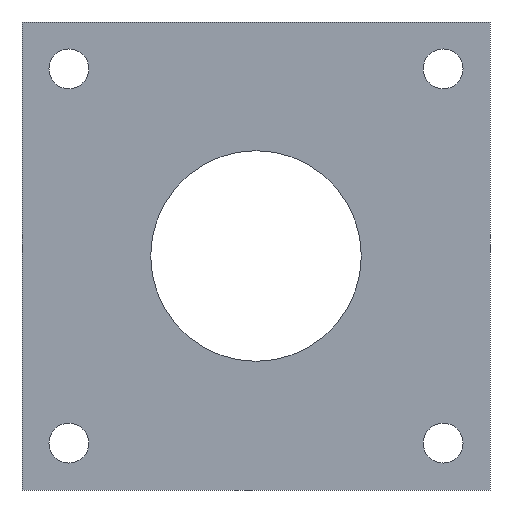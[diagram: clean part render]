
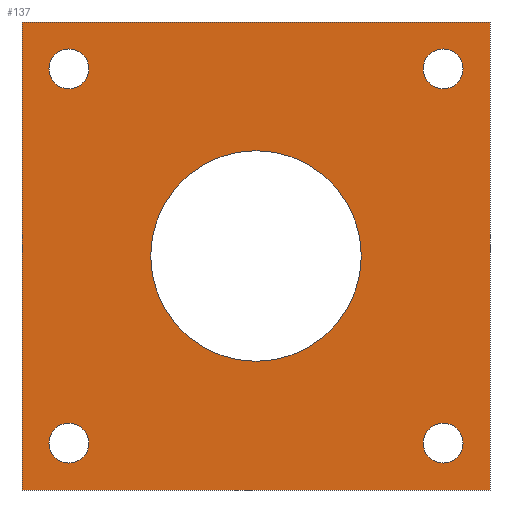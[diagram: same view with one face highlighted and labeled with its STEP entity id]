
A CAD part, front view. The second image highlights one B-rep face of the part: STEP entity #137.
In plain terms, the highlighted planar face has unit normal (0, -1, 0).
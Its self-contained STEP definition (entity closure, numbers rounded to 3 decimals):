
#21 = EDGE_CURVE('',#22,#24,#26,.T.);
#22 = VERTEX_POINT('',#23);
#23 = CARTESIAN_POINT('',(-20.,0.,-20.));
#24 = VERTEX_POINT('',#25);
#25 = CARTESIAN_POINT('',(-20.,0.,20.));
#26 = SURFACE_CURVE('',#27,(#31,#43),.PCURVE_S1.);
#27 = LINE('',#28,#29);
#28 = CARTESIAN_POINT('',(-20.,0.,-20.));
#29 = VECTOR('',#30,1.);
#30 = DIRECTION('',(0.,0.,1.));
#31 = PCURVE('',#32,#37);
#32 = PLANE('',#33);
#33 = AXIS2_PLACEMENT_3D('',#34,#35,#36);
#34 = CARTESIAN_POINT('',(-20.,0.,-20.));
#35 = DIRECTION('',(1.,0.,0.));
#36 = DIRECTION('',(0.,0.,1.));
#37 = DEFINITIONAL_REPRESENTATION('',(#38),#42);
#38 = LINE('',#39,#40);
#39 = CARTESIAN_POINT('',(0.,0.));
#40 = VECTOR('',#41,1.);
#41 = DIRECTION('',(1.,0.));
#42 = ( GEOMETRIC_REPRESENTATION_CONTEXT(2) 
PARAMETRIC_REPRESENTATION_CONTEXT() REPRESENTATION_CONTEXT('2D SPACE',''
  ) );
#43 = PCURVE('',#44,#49);
#44 = PLANE('',#45);
#45 = AXIS2_PLACEMENT_3D('',#46,#47,#48);
#46 = CARTESIAN_POINT('',(-20.,0.,-20.));
#47 = DIRECTION('',(0.,1.,0.));
#48 = DIRECTION('',(0.,0.,1.));
#49 = DEFINITIONAL_REPRESENTATION('',(#50),#54);
#50 = LINE('',#51,#52);
#51 = CARTESIAN_POINT('',(0.,0.));
#52 = VECTOR('',#53,1.);
#53 = DIRECTION('',(1.,0.));
#54 = ( GEOMETRIC_REPRESENTATION_CONTEXT(2) 
PARAMETRIC_REPRESENTATION_CONTEXT() REPRESENTATION_CONTEXT('2D SPACE',''
  ) );
#72 = PLANE('',#73);
#73 = AXIS2_PLACEMENT_3D('',#74,#75,#76);
#74 = CARTESIAN_POINT('',(-20.,0.,-20.));
#75 = DIRECTION('',(0.,0.,1.));
#76 = DIRECTION('',(1.,0.,0.));
#126 = PLANE('',#127);
#127 = AXIS2_PLACEMENT_3D('',#128,#129,#130);
#128 = CARTESIAN_POINT('',(-20.,0.,20.));
#129 = DIRECTION('',(0.,0.,1.));
#130 = DIRECTION('',(1.,0.,0.));
#137 = ADVANCED_FACE('',(#138,#213,#244,#275,#306,#337),#44,.F.);
#138 = FACE_BOUND('',#139,.F.);
#139 = EDGE_LOOP('',(#140,#163,#164,#187));
#140 = ORIENTED_EDGE('',*,*,#141,.F.);
#141 = EDGE_CURVE('',#22,#142,#144,.T.);
#142 = VERTEX_POINT('',#143);
#143 = CARTESIAN_POINT('',(20.,0.,-20.));
#144 = SURFACE_CURVE('',#145,(#149,#156),.PCURVE_S1.);
#145 = LINE('',#146,#147);
#146 = CARTESIAN_POINT('',(-20.,0.,-20.));
#147 = VECTOR('',#148,1.);
#148 = DIRECTION('',(1.,0.,0.));
#149 = PCURVE('',#44,#150);
#150 = DEFINITIONAL_REPRESENTATION('',(#151),#155);
#151 = LINE('',#152,#153);
#152 = CARTESIAN_POINT('',(0.,0.));
#153 = VECTOR('',#154,1.);
#154 = DIRECTION('',(0.,1.));
#155 = ( GEOMETRIC_REPRESENTATION_CONTEXT(2) 
PARAMETRIC_REPRESENTATION_CONTEXT() REPRESENTATION_CONTEXT('2D SPACE',''
  ) );
#156 = PCURVE('',#72,#157);
#157 = DEFINITIONAL_REPRESENTATION('',(#158),#162);
#158 = LINE('',#159,#160);
#159 = CARTESIAN_POINT('',(0.,0.));
#160 = VECTOR('',#161,1.);
#161 = DIRECTION('',(1.,0.));
#162 = ( GEOMETRIC_REPRESENTATION_CONTEXT(2) 
PARAMETRIC_REPRESENTATION_CONTEXT() REPRESENTATION_CONTEXT('2D SPACE',''
  ) );
#163 = ORIENTED_EDGE('',*,*,#21,.T.);
#164 = ORIENTED_EDGE('',*,*,#165,.T.);
#165 = EDGE_CURVE('',#24,#166,#168,.T.);
#166 = VERTEX_POINT('',#167);
#167 = CARTESIAN_POINT('',(20.,0.,20.));
#168 = SURFACE_CURVE('',#169,(#173,#180),.PCURVE_S1.);
#169 = LINE('',#170,#171);
#170 = CARTESIAN_POINT('',(-20.,0.,20.));
#171 = VECTOR('',#172,1.);
#172 = DIRECTION('',(1.,0.,0.));
#173 = PCURVE('',#44,#174);
#174 = DEFINITIONAL_REPRESENTATION('',(#175),#179);
#175 = LINE('',#176,#177);
#176 = CARTESIAN_POINT('',(40.,0.));
#177 = VECTOR('',#178,1.);
#178 = DIRECTION('',(0.,1.));
#179 = ( GEOMETRIC_REPRESENTATION_CONTEXT(2) 
PARAMETRIC_REPRESENTATION_CONTEXT() REPRESENTATION_CONTEXT('2D SPACE',''
  ) );
#180 = PCURVE('',#126,#181);
#181 = DEFINITIONAL_REPRESENTATION('',(#182),#186);
#182 = LINE('',#183,#184);
#183 = CARTESIAN_POINT('',(0.,0.));
#184 = VECTOR('',#185,1.);
#185 = DIRECTION('',(1.,0.));
#186 = ( GEOMETRIC_REPRESENTATION_CONTEXT(2) 
PARAMETRIC_REPRESENTATION_CONTEXT() REPRESENTATION_CONTEXT('2D SPACE',''
  ) );
#187 = ORIENTED_EDGE('',*,*,#188,.F.);
#188 = EDGE_CURVE('',#142,#166,#189,.T.);
#189 = SURFACE_CURVE('',#190,(#194,#201),.PCURVE_S1.);
#190 = LINE('',#191,#192);
#191 = CARTESIAN_POINT('',(20.,0.,-20.));
#192 = VECTOR('',#193,1.);
#193 = DIRECTION('',(0.,0.,1.));
#194 = PCURVE('',#44,#195);
#195 = DEFINITIONAL_REPRESENTATION('',(#196),#200);
#196 = LINE('',#197,#198);
#197 = CARTESIAN_POINT('',(0.,40.));
#198 = VECTOR('',#199,1.);
#199 = DIRECTION('',(1.,0.));
#200 = ( GEOMETRIC_REPRESENTATION_CONTEXT(2) 
PARAMETRIC_REPRESENTATION_CONTEXT() REPRESENTATION_CONTEXT('2D SPACE',''
  ) );
#201 = PCURVE('',#202,#207);
#202 = PLANE('',#203);
#203 = AXIS2_PLACEMENT_3D('',#204,#205,#206);
#204 = CARTESIAN_POINT('',(20.,0.,-20.));
#205 = DIRECTION('',(1.,0.,0.));
#206 = DIRECTION('',(0.,0.,1.));
#207 = DEFINITIONAL_REPRESENTATION('',(#208),#212);
#208 = LINE('',#209,#210);
#209 = CARTESIAN_POINT('',(0.,0.));
#210 = VECTOR('',#211,1.);
#211 = DIRECTION('',(1.,0.));
#212 = ( GEOMETRIC_REPRESENTATION_CONTEXT(2) 
PARAMETRIC_REPRESENTATION_CONTEXT() REPRESENTATION_CONTEXT('2D SPACE',''
  ) );
#213 = FACE_BOUND('',#214,.F.);
#214 = EDGE_LOOP('',(#215));
#215 = ORIENTED_EDGE('',*,*,#216,.F.);
#216 = EDGE_CURVE('',#217,#217,#219,.T.);
#217 = VERTEX_POINT('',#218);
#218 = CARTESIAN_POINT('',(-16.,0.,-14.3));
#219 = SURFACE_CURVE('',#220,(#225,#232),.PCURVE_S1.);
#220 = CIRCLE('',#221,1.7);
#221 = AXIS2_PLACEMENT_3D('',#222,#223,#224);
#222 = CARTESIAN_POINT('',(-16.,0.,-16.));
#223 = DIRECTION('',(0.,1.,0.));
#224 = DIRECTION('',(0.,-0.,1.));
#225 = PCURVE('',#44,#226);
#226 = DEFINITIONAL_REPRESENTATION('',(#227),#231);
#227 = CIRCLE('',#228,1.7);
#228 = AXIS2_PLACEMENT_2D('',#229,#230);
#229 = CARTESIAN_POINT('',(4.,4.));
#230 = DIRECTION('',(1.,0.));
#231 = ( GEOMETRIC_REPRESENTATION_CONTEXT(2) 
PARAMETRIC_REPRESENTATION_CONTEXT() REPRESENTATION_CONTEXT('2D SPACE',''
  ) );
#232 = PCURVE('',#233,#238);
#233 = CYLINDRICAL_SURFACE('',#234,1.7);
#234 = AXIS2_PLACEMENT_3D('',#235,#236,#237);
#235 = CARTESIAN_POINT('',(-16.,-1.,-16.));
#236 = DIRECTION('',(0.,1.,0.));
#237 = DIRECTION('',(0.,-0.,1.));
#238 = DEFINITIONAL_REPRESENTATION('',(#239),#243);
#239 = LINE('',#240,#241);
#240 = CARTESIAN_POINT('',(0.,1.));
#241 = VECTOR('',#242,1.);
#242 = DIRECTION('',(1.,0.));
#243 = ( GEOMETRIC_REPRESENTATION_CONTEXT(2) 
PARAMETRIC_REPRESENTATION_CONTEXT() REPRESENTATION_CONTEXT('2D SPACE',''
  ) );
#244 = FACE_BOUND('',#245,.F.);
#245 = EDGE_LOOP('',(#246));
#246 = ORIENTED_EDGE('',*,*,#247,.F.);
#247 = EDGE_CURVE('',#248,#248,#250,.T.);
#248 = VERTEX_POINT('',#249);
#249 = CARTESIAN_POINT('',(0.,0.,9.));
#250 = SURFACE_CURVE('',#251,(#256,#263),.PCURVE_S1.);
#251 = CIRCLE('',#252,9.);
#252 = AXIS2_PLACEMENT_3D('',#253,#254,#255);
#253 = CARTESIAN_POINT('',(0.,0.,0.));
#254 = DIRECTION('',(0.,1.,0.));
#255 = DIRECTION('',(0.,-0.,1.));
#256 = PCURVE('',#44,#257);
#257 = DEFINITIONAL_REPRESENTATION('',(#258),#262);
#258 = CIRCLE('',#259,9.);
#259 = AXIS2_PLACEMENT_2D('',#260,#261);
#260 = CARTESIAN_POINT('',(20.,20.));
#261 = DIRECTION('',(1.,0.));
#262 = ( GEOMETRIC_REPRESENTATION_CONTEXT(2) 
PARAMETRIC_REPRESENTATION_CONTEXT() REPRESENTATION_CONTEXT('2D SPACE',''
  ) );
#263 = PCURVE('',#264,#269);
#264 = CYLINDRICAL_SURFACE('',#265,9.);
#265 = AXIS2_PLACEMENT_3D('',#266,#267,#268);
#266 = CARTESIAN_POINT('',(0.,-1.,0.));
#267 = DIRECTION('',(0.,1.,0.));
#268 = DIRECTION('',(0.,-0.,1.));
#269 = DEFINITIONAL_REPRESENTATION('',(#270),#274);
#270 = LINE('',#271,#272);
#271 = CARTESIAN_POINT('',(0.,1.));
#272 = VECTOR('',#273,1.);
#273 = DIRECTION('',(1.,0.));
#274 = ( GEOMETRIC_REPRESENTATION_CONTEXT(2) 
PARAMETRIC_REPRESENTATION_CONTEXT() REPRESENTATION_CONTEXT('2D SPACE',''
  ) );
#275 = FACE_BOUND('',#276,.F.);
#276 = EDGE_LOOP('',(#277));
#277 = ORIENTED_EDGE('',*,*,#278,.F.);
#278 = EDGE_CURVE('',#279,#279,#281,.T.);
#279 = VERTEX_POINT('',#280);
#280 = CARTESIAN_POINT('',(-16.,0.,17.7));
#281 = SURFACE_CURVE('',#282,(#287,#294),.PCURVE_S1.);
#282 = CIRCLE('',#283,1.7);
#283 = AXIS2_PLACEMENT_3D('',#284,#285,#286);
#284 = CARTESIAN_POINT('',(-16.,0.,16.));
#285 = DIRECTION('',(0.,1.,0.));
#286 = DIRECTION('',(0.,-0.,1.));
#287 = PCURVE('',#44,#288);
#288 = DEFINITIONAL_REPRESENTATION('',(#289),#293);
#289 = CIRCLE('',#290,1.7);
#290 = AXIS2_PLACEMENT_2D('',#291,#292);
#291 = CARTESIAN_POINT('',(36.,4.));
#292 = DIRECTION('',(1.,0.));
#293 = ( GEOMETRIC_REPRESENTATION_CONTEXT(2) 
PARAMETRIC_REPRESENTATION_CONTEXT() REPRESENTATION_CONTEXT('2D SPACE',''
  ) );
#294 = PCURVE('',#295,#300);
#295 = CYLINDRICAL_SURFACE('',#296,1.7);
#296 = AXIS2_PLACEMENT_3D('',#297,#298,#299);
#297 = CARTESIAN_POINT('',(-16.,-1.,16.));
#298 = DIRECTION('',(0.,1.,0.));
#299 = DIRECTION('',(0.,-0.,1.));
#300 = DEFINITIONAL_REPRESENTATION('',(#301),#305);
#301 = LINE('',#302,#303);
#302 = CARTESIAN_POINT('',(0.,1.));
#303 = VECTOR('',#304,1.);
#304 = DIRECTION('',(1.,0.));
#305 = ( GEOMETRIC_REPRESENTATION_CONTEXT(2) 
PARAMETRIC_REPRESENTATION_CONTEXT() REPRESENTATION_CONTEXT('2D SPACE',''
  ) );
#306 = FACE_BOUND('',#307,.F.);
#307 = EDGE_LOOP('',(#308));
#308 = ORIENTED_EDGE('',*,*,#309,.F.);
#309 = EDGE_CURVE('',#310,#310,#312,.T.);
#310 = VERTEX_POINT('',#311);
#311 = CARTESIAN_POINT('',(16.,0.,-14.3));
#312 = SURFACE_CURVE('',#313,(#318,#325),.PCURVE_S1.);
#313 = CIRCLE('',#314,1.7);
#314 = AXIS2_PLACEMENT_3D('',#315,#316,#317);
#315 = CARTESIAN_POINT('',(16.,0.,-16.));
#316 = DIRECTION('',(0.,1.,0.));
#317 = DIRECTION('',(0.,-0.,1.));
#318 = PCURVE('',#44,#319);
#319 = DEFINITIONAL_REPRESENTATION('',(#320),#324);
#320 = CIRCLE('',#321,1.7);
#321 = AXIS2_PLACEMENT_2D('',#322,#323);
#322 = CARTESIAN_POINT('',(4.,36.));
#323 = DIRECTION('',(1.,0.));
#324 = ( GEOMETRIC_REPRESENTATION_CONTEXT(2) 
PARAMETRIC_REPRESENTATION_CONTEXT() REPRESENTATION_CONTEXT('2D SPACE',''
  ) );
#325 = PCURVE('',#326,#331);
#326 = CYLINDRICAL_SURFACE('',#327,1.7);
#327 = AXIS2_PLACEMENT_3D('',#328,#329,#330);
#328 = CARTESIAN_POINT('',(16.,-1.,-16.));
#329 = DIRECTION('',(0.,1.,0.));
#330 = DIRECTION('',(0.,-0.,1.));
#331 = DEFINITIONAL_REPRESENTATION('',(#332),#336);
#332 = LINE('',#333,#334);
#333 = CARTESIAN_POINT('',(0.,1.));
#334 = VECTOR('',#335,1.);
#335 = DIRECTION('',(1.,0.));
#336 = ( GEOMETRIC_REPRESENTATION_CONTEXT(2) 
PARAMETRIC_REPRESENTATION_CONTEXT() REPRESENTATION_CONTEXT('2D SPACE',''
  ) );
#337 = FACE_BOUND('',#338,.F.);
#338 = EDGE_LOOP('',(#339));
#339 = ORIENTED_EDGE('',*,*,#340,.F.);
#340 = EDGE_CURVE('',#341,#341,#343,.T.);
#341 = VERTEX_POINT('',#342);
#342 = CARTESIAN_POINT('',(16.,0.,17.7));
#343 = SURFACE_CURVE('',#344,(#349,#356),.PCURVE_S1.);
#344 = CIRCLE('',#345,1.7);
#345 = AXIS2_PLACEMENT_3D('',#346,#347,#348);
#346 = CARTESIAN_POINT('',(16.,0.,16.));
#347 = DIRECTION('',(0.,1.,0.));
#348 = DIRECTION('',(0.,-0.,1.));
#349 = PCURVE('',#44,#350);
#350 = DEFINITIONAL_REPRESENTATION('',(#351),#355);
#351 = CIRCLE('',#352,1.7);
#352 = AXIS2_PLACEMENT_2D('',#353,#354);
#353 = CARTESIAN_POINT('',(36.,36.));
#354 = DIRECTION('',(1.,0.));
#355 = ( GEOMETRIC_REPRESENTATION_CONTEXT(2) 
PARAMETRIC_REPRESENTATION_CONTEXT() REPRESENTATION_CONTEXT('2D SPACE',''
  ) );
#356 = PCURVE('',#357,#362);
#357 = CYLINDRICAL_SURFACE('',#358,1.7);
#358 = AXIS2_PLACEMENT_3D('',#359,#360,#361);
#359 = CARTESIAN_POINT('',(16.,-1.,16.));
#360 = DIRECTION('',(0.,1.,0.));
#361 = DIRECTION('',(0.,-0.,1.));
#362 = DEFINITIONAL_REPRESENTATION('',(#363),#367);
#363 = LINE('',#364,#365);
#364 = CARTESIAN_POINT('',(0.,1.));
#365 = VECTOR('',#366,1.);
#366 = DIRECTION('',(1.,0.));
#367 = ( GEOMETRIC_REPRESENTATION_CONTEXT(2) 
PARAMETRIC_REPRESENTATION_CONTEXT() REPRESENTATION_CONTEXT('2D SPACE',''
  ) );
